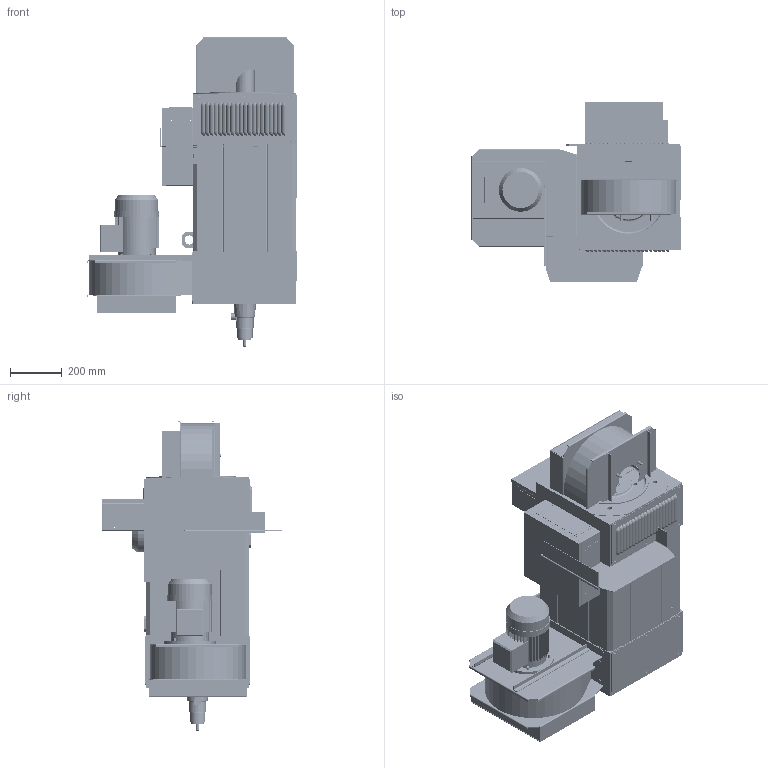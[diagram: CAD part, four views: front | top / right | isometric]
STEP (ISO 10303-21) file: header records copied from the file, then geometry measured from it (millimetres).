
FILE_DESCRIPTION( ( 'STEP AP203' ), '1' );
FILE_NAME( 'C:/Documents and Settings/JVillen/Mis documentos/PLANOLS/Planols vigents/MAC QI-QE/Mac200/Cj. Motor Simplificat/MAC-QI/MAC-QI 200 L/MAC-QI 200 L B5 ed08.stp', '2009-11-25T14:04:17', ( ' ' ), ( ' ' ), 'XStep 1.0', ' ', ' ' );
FILE_SCHEMA( ( 'CONFIG_CONTROL_DESIGN) ( )' ) );
Length unit declared in the file: metre
Products named in the file (44): Assem1; Assem2; Assem3; Assem4; 1; 2; 3; 4; 5; 6; 7; 8; 9; 10; 11; 12; 13; 14; 15; 16; 17; 18; 19; 20; 21; 22; 23; 24; 25; 26; 27; 28; 29; 30; 31; 32; 33; 34; 35; 36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
Bounding box: 807 x 696.61 x 1192 mm (x, y, z)
Volume: 274446984.1 mm3; surface area: 15215293.1 mm2
Topology: 134 solids, 148 shells, 4315 faces, 11140 edges, 7182 vertices
Faces by surface type: plane 2171, cylinder 1683, sphere 288, cone 71, bspline 52, torus 50
Full cylindrical faces by diameter (mm): 2.459 x13, 3.242 x8, 3.5 x126, 4 x35, 4.6 x135, 4.917 x66, 5 x14, 6 x6, 7 x27, 8 x3, 8.5 x9, 9 x32, 10 x23, 10.106 x16, 12 x2, 13 x9, 13.835 x2, 14 x22, 16 x2, 18 x8, 19 x8, 20 x15, 24 x2, 25 x5, 30 x9, 32 x3, 35 x3, 50 x11, 51 x5, 57 x2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
Entity records: 50987 total; most frequent: CARTESIAN_POINT 10723, DIRECTION 8273, ORIENTED_EDGE 7224, EDGE_CURVE 3612, AXIS2_PLACEMENT_3D 3134, VERTEX_POINT 2542, EDGE_LOOP 2307, LINE 2005
